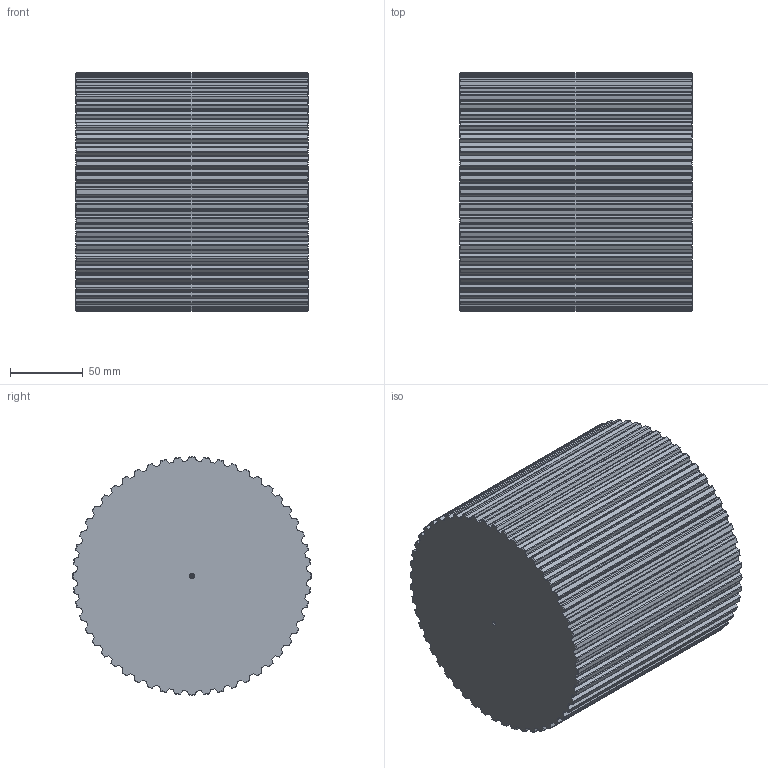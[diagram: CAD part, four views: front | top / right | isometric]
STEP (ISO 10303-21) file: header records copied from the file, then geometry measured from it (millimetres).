
FILE_DESCRIPTION(('STEP AP203'),'1');
FILE_NAME('barat_52.stp','2022-04-12T09:40:14',('TraceParts'),('TraceParts S.A.'),'Spatial InterOp 3D',' ',' ');
FILE_SCHEMA(('CONFIG_CONTROL_DESIGN'));
Length unit declared in the file: millimetre
Products named in the file (1): 1
Bounding box: 160 x 164.52 x 164.52 mm (x, y, z)
Volume: 3287863.6 mm3; surface area: 149279.1 mm2
Topology: 1 solids, 1 shells, 538 faces, 1600 edges, 1062 vertices
Faces by surface type: cylinder 316, cone 116, plane 106
Entity records: 19444 total; most frequent: CARTESIAN_POINT 5485, ORIENTED_EDGE 3192, DIRECTION 2798, EDGE_CURVE 1596, AXIS2_PLACEMENT_3D 1079, VERTEX_POINT 1062, LINE 640, VECTOR 640
